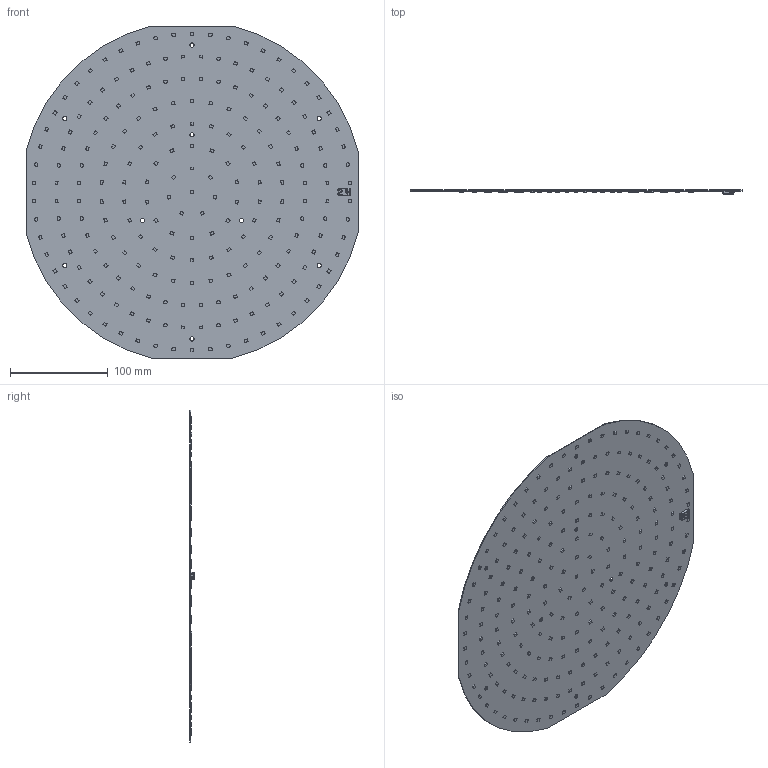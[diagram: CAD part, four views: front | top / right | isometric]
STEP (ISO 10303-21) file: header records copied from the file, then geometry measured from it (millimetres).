
FILE_DESCRIPTION(/* description */ ('Unknown'),/* implementation_level */ '2;1');
FILE_NAME(/* name */ 'RdLED 350mm 4000lm FLAT G1 sh-000 2020-06-19',/* time_stamp */ '2020-06-19T08:22:19+02:00',/* author */ ('Unknown'),/* organization */ ('Unknown'),/* preprocessor_version */ 'ST-DEVELOPER v16.7',/* originating_system */ 'Solid Edge',/* authorisation */ 'Unknown');
FILE_SCHEMA (('AUTOMOTIVE_DESIGN {1 0 10303 214 3 1 1}'));
Products named in the file (1): RdLED 350mm 4000lm FLAT G1 sh-000 2020-06-19
Bounding box: 340 x 4.45 x 340 mm (x, y, z)
Volume: 97032.1 mm3; surface area: 194067.8 mm2
Topology: 1 solids, 1 shells, 3878 faces, 10169 edges, 6724 vertices
Faces by surface type: plane 3621, cylinder 123, bspline 87, cone 26, torus 11, sphere 10
Full cylindrical faces by diameter (mm): 4.3 x9
Entity records: 146317 total; most frequent: CARTESIAN_POINT 24209, ORIENTED_EDGE 20282, DIRECTION 17630, EDGE_CURVE 10141, LINE 9584, VECTOR 9584, VERTEX_POINT 6719, EDGE_LOOP 4356
